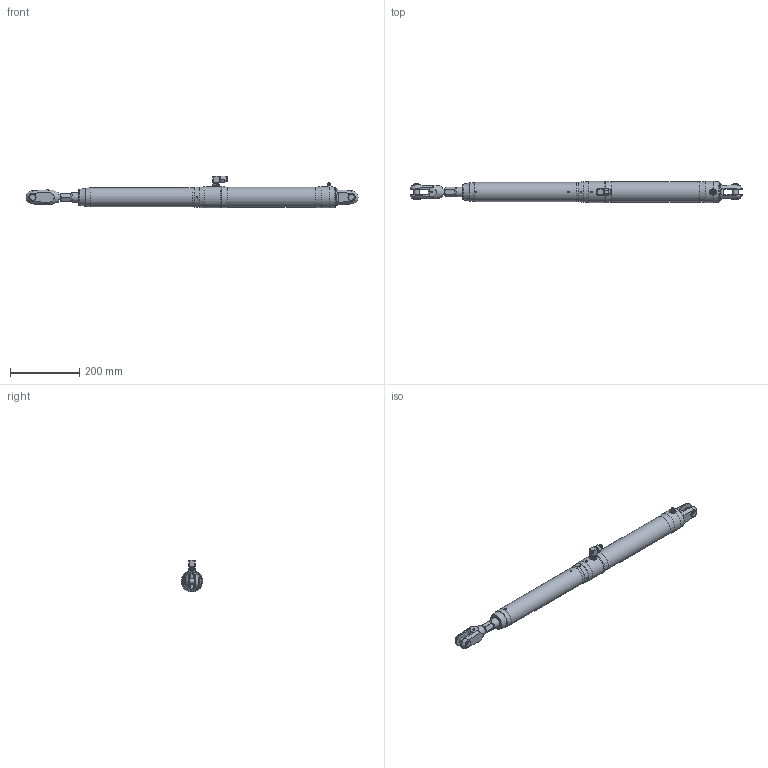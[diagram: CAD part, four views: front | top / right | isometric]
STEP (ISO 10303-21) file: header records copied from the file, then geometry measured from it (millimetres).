
FILE_DESCRIPTION(/* description */ (''),/* implementation_level */ '2;1');
FILE_NAME(/* name */ 'Q:\AA BRAND HYDRAULICS\HYDRAULICS FAMILY DIRECTORY\HYDRAULICS\CYLINDERS\MECHANICAL LOCK RAMS\ALUMINIUM - STAINLESS SINGLE ACTING (-0012 To -0150)\MSA-0017-S0260-NP-71\MSA-0017-S0260-NP-71 (Closed).stp',/* time_stamp */ '2018-04-25T14:42:13+01:00',/* author */ ('Lorena'),/* organization */ (''),/* preprocessor_version */ 'ST-DEVELOPER v17',/* originating_system */ 'Autodesk Inventor 2018',/* authorisation */ '');
FILE_SCHEMA (('AUTOMOTIVE_DESIGN { 1 0 10303 214 3 1 1 }'));
Length unit declared in the file: millimetre
Products named in the file (1): MSA-0017-S0260-NP-71 (Closed)
Bounding box: 959.15 x 61.4 x 92.2 mm (x, y, z)
Volume: 2100651.9 mm3; surface area: 179790.4 mm2
Topology: 2 solids, 4 shells, 506 faces, 1328 edges, 864 vertices
Faces by surface type: plane 284, cone 129, cylinder 78, torus 6, bspline 5, sphere 4
Full cylindrical faces by diameter (mm): 4 x5, 4.4 x1, 5 x5, 5.1 x1, 7 x1, 9 x1, 10 x2, 11.11 x1, 11.157 x1, 11.5 x1, 11.8 x1, 12 x3, 12.157 x1, 13 x1, 13.157 x2, 14.5 x2, 15.88 x2, 17.5 x1, 18.3 x3, 19.85 x2, 27 x2, 28 x1, 31 x1, 55 x1, 58.4 x1, 61.4 x4
Entity records: 17038 total; most frequent: CARTESIAN_POINT 4223, ORIENTED_EDGE 2636, DIRECTION 2544, EDGE_CURVE 1318, AXIS2_PLACEMENT_3D 979, VERTEX_POINT 864, LINE 586, VECTOR 586
